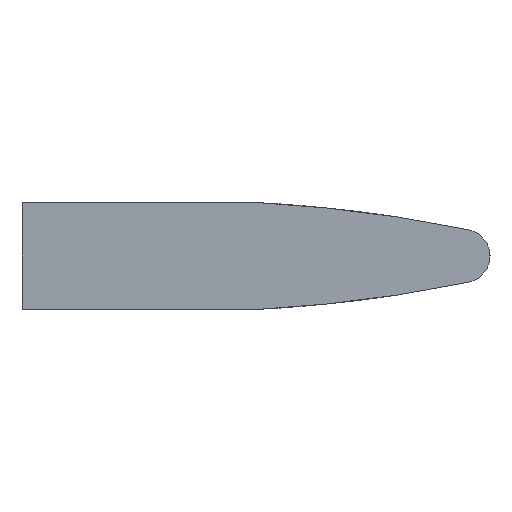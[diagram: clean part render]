
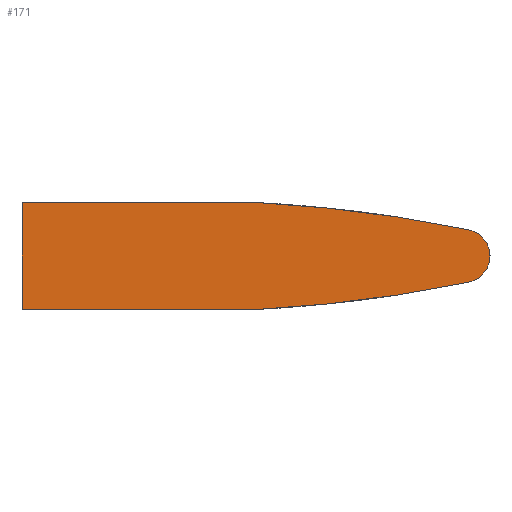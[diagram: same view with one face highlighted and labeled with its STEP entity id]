
A CAD part, left-side view. The second image highlights one B-rep face of the part: STEP entity #171.
In plain terms, the highlighted planar face has unit normal (-1, 0, 0).
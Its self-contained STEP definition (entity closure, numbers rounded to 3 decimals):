
#171 = ADVANCED_FACE( '', ( #449 ), #450, .F. );
#191 = VERTEX_POINT( '', #471 );
#207 = VERTEX_POINT( '', #490 );
#219 = VERTEX_POINT( '', #504 );
#257 = EDGE_CURVE( '', #191, #219, #544, .T. );
#263 = EDGE_CURVE( '', #207, #191, #550, .T. );
#267 = EDGE_CURVE( '', #355, #303, #554, .T. );
#277 = EDGE_CURVE( '', #303, #207, #564, .T. );
#299 = EDGE_CURVE( '', #219, #373, #590, .T. );
#301 = VERTEX_POINT( '', #592 );
#303 = VERTEX_POINT( '', #594 );
#325 = EDGE_CURVE( '', #373, #301, #617, .T. );
#327 = EDGE_CURVE( '', #301, #355, #619, .T. );
#355 = VERTEX_POINT( '', #649 );
#373 = VERTEX_POINT( '', #670 );
#449 = FACE_OUTER_BOUND( '', #744, .T. );
#450 = PLANE( '', #745 );
#471 = CARTESIAN_POINT( '', ( -122.5, 0., -4. ) );
#490 = CARTESIAN_POINT( '', ( -122.5, -17.5, -4. ) );
#504 = CARTESIAN_POINT( '', ( -122.5, 0., 4. ) );
#544 = LINE( '', #898, #899 );
#550 = LINE( '', #909, #910 );
#554 = CIRCLE( '', #915, 2. );
#564 = CIRCLE( '', #945, 106.818 );
#590 = LINE( '', #993, #994 );
#592 = CARTESIAN_POINT( '', ( -122.5, -33.402, 1.963 ) );
#594 = CARTESIAN_POINT( '', ( -122.5, -33.402, -1.963 ) );
#617 = CIRCLE( '', #1031, 106.818 );
#619 = CIRCLE( '', #1034, 2. );
#649 = CARTESIAN_POINT( '', ( -122.5, -35., 0. ) );
#670 = CARTESIAN_POINT( '', ( -122.5, -17.5, 4. ) );
#744 = EDGE_LOOP( '', ( #1192, #1193, #1194, #1195, #1196, #1197, #1198 ) );
#745 = AXIS2_PLACEMENT_3D( '', #1199, #1200, #1201 );
#898 = CARTESIAN_POINT( '', ( -122.5, 0., -4. ) );
#899 = VECTOR( '', #1294, 1. );
#909 = CARTESIAN_POINT( '', ( -122.5, -17.5, -4. ) );
#910 = VECTOR( '', #1299, 1. );
#915 = AXIS2_PLACEMENT_3D( '', #1300, #1301, #1302 );
#945 = AXIS2_PLACEMENT_3D( '', #1312, #1313, #1314 );
#993 = CARTESIAN_POINT( '', ( -122.5, 0., 4. ) );
#994 = VECTOR( '', #1370, 1. );
#1031 = AXIS2_PLACEMENT_3D( '', #1391, #1392, #1393 );
#1034 = AXIS2_PLACEMENT_3D( '', #1394, #1395, #1396 );
#1192 = ORIENTED_EDGE( '', *, *, #327, .F. );
#1193 = ORIENTED_EDGE( '', *, *, #325, .F. );
#1194 = ORIENTED_EDGE( '', *, *, #299, .F. );
#1195 = ORIENTED_EDGE( '', *, *, #257, .F. );
#1196 = ORIENTED_EDGE( '', *, *, #263, .F. );
#1197 = ORIENTED_EDGE( '', *, *, #277, .F. );
#1198 = ORIENTED_EDGE( '', *, *, #267, .F. );
#1199 = CARTESIAN_POINT( '', ( -122.5, 0., 0. ) );
#1200 = DIRECTION( '', ( 1., 0., 0. ) );
#1201 = DIRECTION( '', ( 0., 0., -1. ) );
#1294 = DIRECTION( '', ( 0., 0., 1. ) );
#1299 = DIRECTION( '', ( 0., 1., 0. ) );
#1300 = CARTESIAN_POINT( '', ( -122.5, -33., -0.004 ) );
#1301 = DIRECTION( '', ( 1., 0., 0. ) );
#1302 = DIRECTION( '', ( 0., -1., 0.002 ) );
#1312 = CARTESIAN_POINT( '', ( -122.5, -11.918, 102.672 ) );
#1313 = DIRECTION( '', ( 1., 0., 0. ) );
#1314 = DIRECTION( '', ( 0., -0.201, -0.98 ) );
#1370 = DIRECTION( '', ( 0., -1., 0. ) );
#1391 = CARTESIAN_POINT( '', ( -122.5, -11.918, -102.672 ) );
#1392 = DIRECTION( '', ( 1., 0., 0. ) );
#1393 = DIRECTION( '', ( 0., -0.052, 0.999 ) );
#1394 = CARTESIAN_POINT( '', ( -122.5, -33., 0.004 ) );
#1395 = DIRECTION( '', ( 1., 0., 0. ) );
#1396 = DIRECTION( '', ( 0., -0.201, 0.98 ) );
